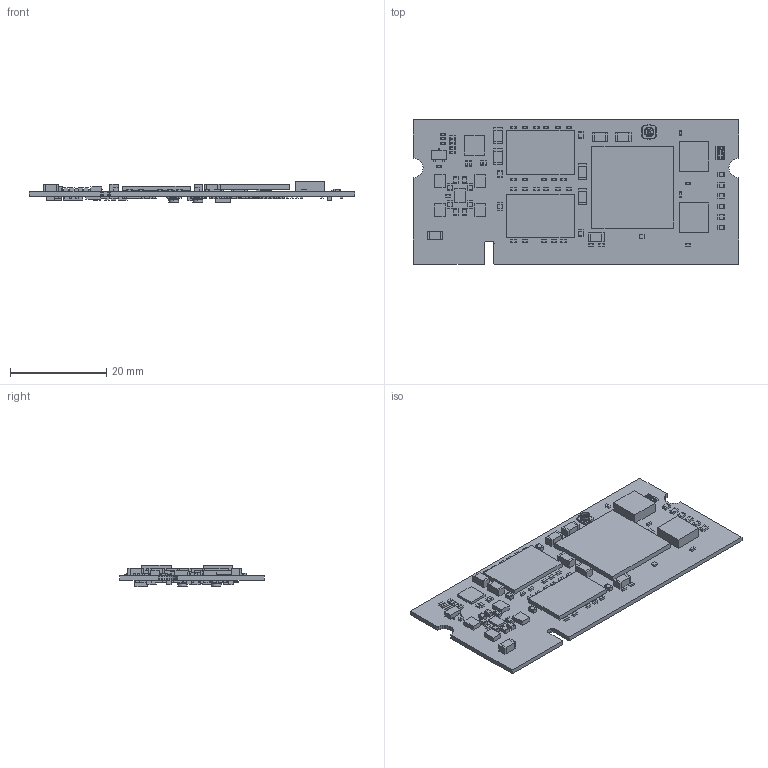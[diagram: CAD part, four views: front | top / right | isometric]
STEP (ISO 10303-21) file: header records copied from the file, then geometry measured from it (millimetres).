
FILE_DESCRIPTION(('Open CASCADE Model'),'2;1');
FILE_NAME('Open CASCADE Shape Model','2017-07-25T07:03:31',('Author'),( 'Open CASCADE'),'Open CASCADE STEP processor 6.2','Open CASCADE 6.2' ,'Unknown');
FILE_SCHEMA(('AUTOMOTIVE_DESIGN { 1 0 10303 214 1 1 1 1 }'));
Length unit declared in the file: millimetre
Products named in the file (335): PCB; BoardKRM-1Z070XX-B; U103KRM-1Z070XX-B; 543577472; Extruded; SN1KRM-1Z070XX-B; 916580020; R215KRM-1Z070XX-B; 543575936; 543576064; R214KRM-1Z070XX-B; 706109680; 706109808; R213KRM-1Z070XX-B; C227KRM-1Z070XX-B; 706110192; 706110320; C204KRM-1Z070XX-B; 543580160; 706107760; 706108016; R212KRM-1Z070XX-B; R211KRM-1Z070XX-B; R152KRM-1Z070XX-B; T105KRM-1Z070XX-B; 706110576; T104KRM-1Z070XX-B; 706110832; T103KRM-1Z070XX-B; T101KRM-1Z070XX-B; T100KRM-1Z070XX-B; R151KRM-1Z070XX-B; R150KRM-1Z070XX-B; R121KRM-1Z070XX-B; R120KRM-1Z070XX-B; R117KRM-1Z070XX-B; R116KRM-1Z070XX-B; R113KRM-1Z070XX-B; R112KRM-1Z070XX-B; R104KRM-1Z070XX-B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
Assembly tree (957 placements, depth 4):
  PCB
    BoardKRM-1Z070XX-B
    U103KRM-1Z070XX-B
      543577472
        Extruded
    SN1KRM-1Z070XX-B
      916580020
    R215KRM-1Z070XX-B
      543575936  x2
        Extruded
      543576064
        Extruded
    R214KRM-1Z070XX-B
      706109680  x2
        Extruded
      706109808
        Extruded
    R213KRM-1Z070XX-B
      706109680  x2
        Extruded
      706109808
        Extruded
    C227KRM-1Z070XX-B
      706110192  x2
        Extruded
      706110320
        Extruded
    C204KRM-1Z070XX-B
      543580160
        Extruded
      706107760
        Extruded
      706108016
        Extruded
    R212KRM-1Z070XX-B
      706109680  x2
        Extruded
      706109808
        Extruded
    R211KRM-1Z070XX-B
      706109680  x2
        Extruded
      706109808
        Extruded
    R152KRM-1Z070XX-B
      706109680  x2
        Extruded
      706109808
        Extruded
    T105KRM-1Z070XX-B
      706110576
        Extruded
    T104KRM-1Z070XX-B
      706110832
        Extruded
    T103KRM-1Z070XX-B
      706110832
        Extruded
    T101KRM-1Z070XX-B
      706110832
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Bounding box: 67.6 x 30 x 4.4 mm (x, y, z)
Volume: 2856.2 mm3; surface area: 7432.1 mm2
Topology: 669 solids, 669 shells, 4490 faces, 9356 edges, 6209 vertices
Faces by surface type: plane 4358, cylinder 82, cone 40, revolution 10
Entity records: 45114 total; most frequent: CARTESIAN_POINT 6967, DIRECTION 6916, LINE 3764, VECTOR 3764, ORIENTED_EDGE 2668, PCURVE 2668, DEFINITIONAL_REPRESENTATION 2668, AXIS2_PLACEMENT_3D 1558
